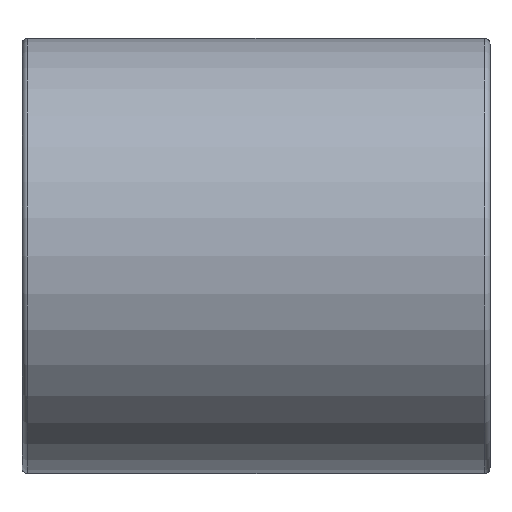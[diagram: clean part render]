
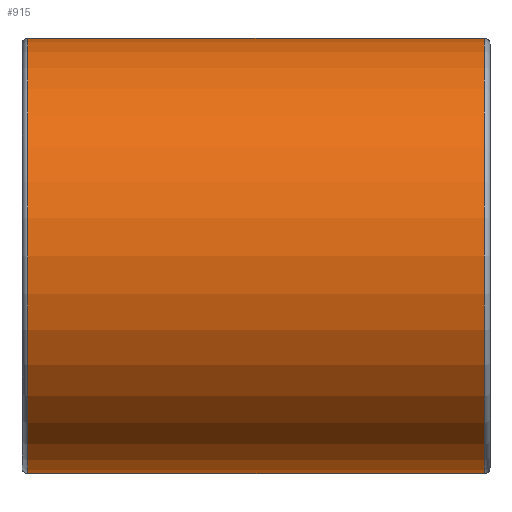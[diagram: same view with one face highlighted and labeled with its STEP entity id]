
A CAD part, front view. The second image highlights one B-rep face of the part: STEP entity #915.
In plain terms, the highlighted cylindrical face has radius 18.6 mm (diameter 37.2 mm), a partial arc.
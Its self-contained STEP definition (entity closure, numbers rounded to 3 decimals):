
#699 = DIRECTION ( 'NONE',  ( -1., 0., 0. ) ) ;
#915 = ADVANCED_FACE ( 'NONE', ( #9624 ), #6629, .T. ) ;
#1212 = CARTESIAN_POINT ( 'NONE',  ( 18.6, -113.9, 19.5 ) ) ;
#1563 = DIRECTION ( 'NONE',  ( 0., 0., -1. ) ) ;
#2722 = ORIENTED_EDGE ( 'NONE', *, *, #27872, .F. ) ;
#2745 = AXIS2_PLACEMENT_3D ( 'NONE', #38686, #15022, #12065 ) ;
#3022 = VERTEX_POINT ( 'NONE', #38400 ) ;
#4540 = CARTESIAN_POINT ( 'NONE',  ( 18.6, -113.9, 20. ) ) ;
#6629 = CYLINDRICAL_SURFACE ( 'NONE', #17542, 18.6 ) ;
#7968 = LINE ( 'NONE', #23213, #23372 ) ;
#8617 = DIRECTION ( 'NONE',  ( 1., 0., 0. ) ) ;
#9624 = FACE_OUTER_BOUND ( 'NONE', #35784, .T. ) ;
#10769 = EDGE_CURVE ( 'NONE', #26678, #3022, #7968, .T. ) ;
#10877 = CARTESIAN_POINT ( 'NONE',  ( 18.6, -113.9, -19.5 ) ) ;
#12065 = DIRECTION ( 'NONE',  ( 1., 0., 0. ) ) ;
#12377 = AXIS2_PLACEMENT_3D ( 'NONE', #32398, #14724, #8617 ) ;
#12923 = VERTEX_POINT ( 'NONE', #10877 ) ;
#14724 = DIRECTION ( 'NONE',  ( 0., 0., -1. ) ) ;
#15022 = DIRECTION ( 'NONE',  ( 0., 0., 1. ) ) ;
#15140 = DIRECTION ( 'NONE',  ( 0., 0., -1. ) ) ;
#15628 = VECTOR ( 'NONE', #1563, 1000. ) ;
#17542 = AXIS2_PLACEMENT_3D ( 'NONE', #27826, #15140, #699 ) ;
#17755 = VERTEX_POINT ( 'NONE', #1212 ) ;
#17812 = EDGE_CURVE ( 'NONE', #3022, #12923, #35701, .T. ) ;
#22965 = ORIENTED_EDGE ( 'NONE', *, *, #10769, .T. ) ;
#23213 = CARTESIAN_POINT ( 'NONE',  ( -18.6, -113.9, 20. ) ) ;
#23240 = EDGE_CURVE ( 'NONE', #17755, #26678, #36451, .T. ) ;
#23372 = VECTOR ( 'NONE', #25575, 1000. ) ;
#25575 = DIRECTION ( 'NONE',  ( 0., 0., -1. ) ) ;
#25628 = ORIENTED_EDGE ( 'NONE', *, *, #17812, .T. ) ;
#26678 = VERTEX_POINT ( 'NONE', #30325 ) ;
#27826 = CARTESIAN_POINT ( 'NONE',  ( 0., -113.9, 20. ) ) ;
#27872 = EDGE_CURVE ( 'NONE', #17755, #12923, #38441, .T. ) ;
#30325 = CARTESIAN_POINT ( 'NONE',  ( -18.6, -113.9, 19.5 ) ) ;
#32398 = CARTESIAN_POINT ( 'NONE',  ( 0., -113.9, 19.5 ) ) ;
#35701 = CIRCLE ( 'NONE', #2745, 18.6 ) ;
#35784 = EDGE_LOOP ( 'NONE', ( #2722, #37824, #22965, #25628 ) ) ;
#36451 = CIRCLE ( 'NONE', #12377, 18.6 ) ;
#37824 = ORIENTED_EDGE ( 'NONE', *, *, #23240, .T. ) ;
#38400 = CARTESIAN_POINT ( 'NONE',  ( -18.6, -113.9, -19.5 ) ) ;
#38441 = LINE ( 'NONE', #4540, #15628 ) ;
#38686 = CARTESIAN_POINT ( 'NONE',  ( 0., -113.9, -19.5 ) ) ;
